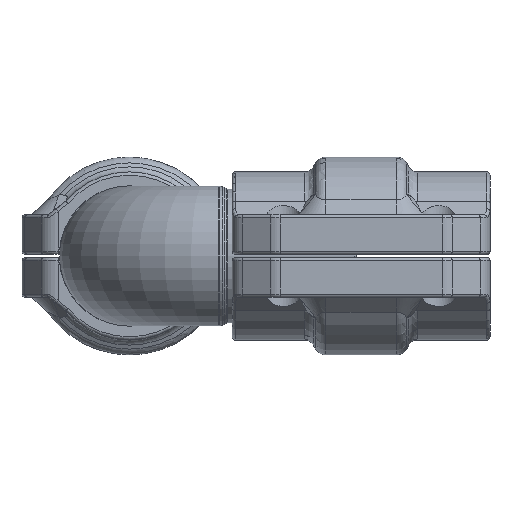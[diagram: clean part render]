
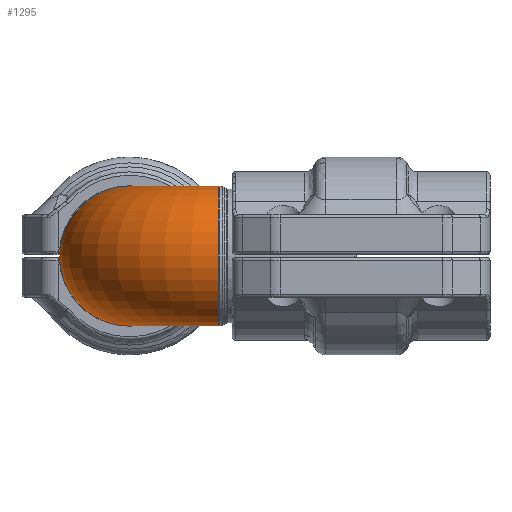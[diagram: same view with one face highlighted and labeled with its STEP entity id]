
A CAD part, left-side view. The second image highlights one B-rep face of the part: STEP entity #1295.
In plain terms, the highlighted toroidal (fillet/blend) face has major radius 27.1 mm and minor radius 21.1 mm.
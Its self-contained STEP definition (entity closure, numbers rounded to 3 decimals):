
#327=CARTESIAN_POINT('',(0.,-27.1,0.));
#328=DIRECTION('',(0.,-1.,0.));
#329=DIRECTION('',(0.,0.,1.));
#330=AXIS2_PLACEMENT_3D('',#327,#328,#329);
#335=CARTESIAN_POINT('',(0.,-27.1,0.));
#336=DIRECTION('',(0.,-1.,0.));
#337=DIRECTION('',(-1.,0.,0.));
#338=AXIS2_PLACEMENT_3D('',#335,#336,#337);
#343=CARTESIAN_POINT('',(27.1,0.,0.));
#344=DIRECTION('',(1.,0.,0.));
#345=DIRECTION('',(0.,0.,-1.));
#346=AXIS2_PLACEMENT_3D('',#343,#344,#345);
#351=CARTESIAN_POINT('',(27.1,0.,0.));
#352=DIRECTION('',(1.,0.,0.));
#353=DIRECTION('',(0.,1.,0.));
#354=AXIS2_PLACEMENT_3D('',#351,#352,#353);
#359=CARTESIAN_POINT('',(27.1,-27.1,21.1));
#360=DIRECTION('',(0.,0.,1.));
#361=DIRECTION('',(0.,1.,0.));
#362=AXIS2_PLACEMENT_3D('',#359,#360,#361);
#461=CARTESIAN_POINT('',(27.1,-27.1,-21.1));
#462=DIRECTION('',(0.,0.,1.));
#463=DIRECTION('',(0.,1.,0.));
#464=AXIS2_PLACEMENT_3D('',#461,#462,#463);
#996=CARTESIAN_POINT('',(0.,-27.1,-21.1));
#997=VERTEX_POINT('',#996);
#998=CARTESIAN_POINT('',(-21.1,-27.1,0.));
#999=VERTEX_POINT('',#998);
#1000=CARTESIAN_POINT('',(0.,-27.1,21.1));
#1001=VERTEX_POINT('',#1000);
#1004=CARTESIAN_POINT('',(27.1,0.,21.1));
#1005=VERTEX_POINT('',#1004);
#1008=CARTESIAN_POINT('',(27.1,0.,-21.1));
#1009=VERTEX_POINT('',#1008);
#1010=CARTESIAN_POINT('',(27.1,21.1,0.));
#1011=VERTEX_POINT('',#1010);
#1278=CARTESIAN_POINT('',(27.1,-27.1,0.));
#1279=DIRECTION('',(0.,0.,1.));
#1280=DIRECTION('',(-1.,0.,0.));
#1281=AXIS2_PLACEMENT_3D('',#1278,#1279,#1280);
#1282=TOROIDAL_SURFACE('',#1281,27.1,21.1);
#1284=ORIENTED_EDGE('',*,*,#1283,.T.);
#1286=ORIENTED_EDGE('',*,*,#1285,.T.);
#1288=ORIENTED_EDGE('',*,*,#1287,.F.);
#1289=ORIENTED_EDGE('',*,*,#1258,.T.);
#1290=ORIENTED_EDGE('',*,*,#1243,.T.);
#1292=ORIENTED_EDGE('',*,*,#1291,.T.);
#1293=EDGE_LOOP('',(#1284,#1286,#1288,#1289,#1290,#1292));
#1294=FACE_OUTER_BOUND('',#1293,.F.);
#331=CIRCLE('',#330,21.1);
#339=CIRCLE('',#338,21.1);
#347=CIRCLE('',#346,21.1);
#355=CIRCLE('',#354,21.1);
#363=CIRCLE('',#362,27.1);
#465=CIRCLE('',#464,27.1);
#1243=EDGE_CURVE('',#1011,#1005,#355,.T.);
#1258=EDGE_CURVE('',#1009,#1011,#347,.T.);
#1283=EDGE_CURVE('',#1001,#999,#331,.T.);
#1285=EDGE_CURVE('',#999,#997,#339,.T.);
#1287=EDGE_CURVE('',#1009,#997,#465,.T.);
#1291=EDGE_CURVE('',#1005,#1001,#363,.T.);
#1295=ADVANCED_FACE('',(#1294),#1282,.T.);
